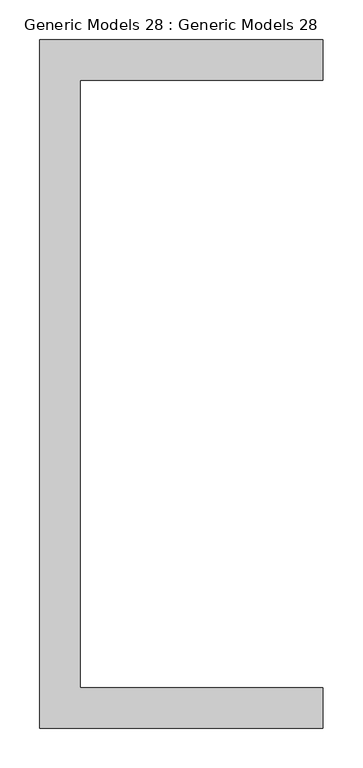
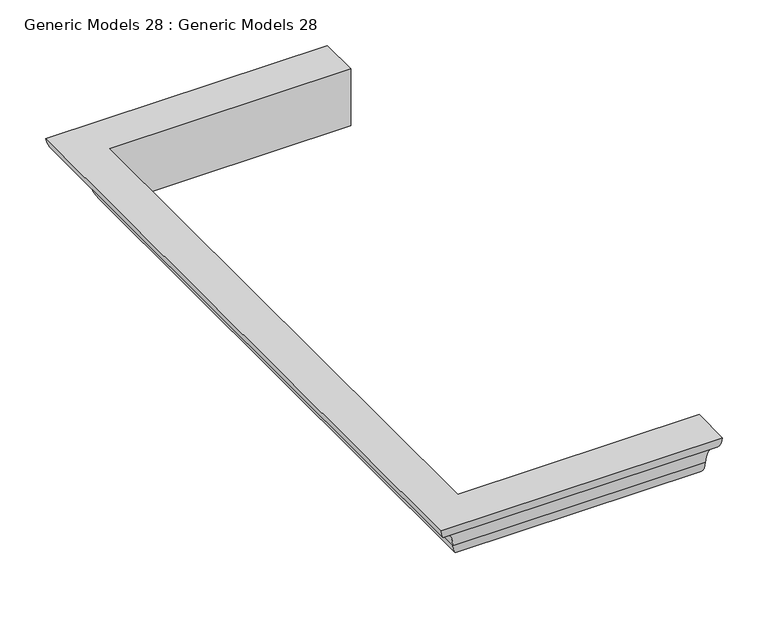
"""IFC4 building model written with IfcOpenShell, lengths in millimetres: proxy geometry, Generic Models 28 : Generic Models 28."""

from ifc_helpers import new_model, si_unit, frame, origin, place, context, project, spatial, polyline, circle_curve, ellipse_curve, source, transform, mapped, element, save
from ifc_brep_helpers import plane_surface, cylinder_surface, revolved_surface, advanced_brep


def generic_models_28_generic_models_28_aea4ba27(model_context):
    return source(origin(), model_context, "Body", "AdvancedBrep", [
        advanced_brep(
        [(3822.7, 3365.3947939, 5638.8), (3822.7, 3379.4841788, 5659.9340775), (3822.7, 3402.1054089, 5693.8659225), (3822.7, 3416.1947939, 5715.0), (3822.7, 3365.3947939, 5715.0), (3517.9, 3365.3947939, 5638.8), (3503.810615, 3379.4841788, 5659.9340775), (3481.189385, 3402.1054089, 5693.8659225), (3467.1, 3416.1947939, 5715.0), (3467.1, 2552.5947939, 5715.0), (3822.7, 2552.5947939, 5715.0), (3822.7, 2603.3947939, 5715.0), (3517.9, 2603.3947939, 5715.0), (3517.9, 3365.3947939, 5715.0), (3517.9, 2603.3947939, 5638.8), (3503.810615, 2589.3054089, 5659.9340775), (3481.189385, 2566.6841788, 5693.8659225), (3822.7, 2603.3947939, 5638.8), (3822.7, 2566.6841788, 5693.8659225), (3822.7, 2589.3054089, 5659.9340775)],
        [
            (0, 1, circle_curve(frame((3822.7, 3351.415854, 5663.3827937), z_axis=(1.0, 0.0, 0.0), x_axis=(0.0, -1.0, 0.0)), 28.2794007)),
            (1, 2, circle_curve(frame((3822.7, 3424.5493136, 5654.3969868), z_axis=(-1.0, 0.0, 0.0), x_axis=(0.0, -1.0, 0.0)), 45.4040279)),
            (2, 3, circle_curve(frame((3822.7, 3388.126469, 5718.4487162), z_axis=(1.0, 0.0, 0.0), x_axis=(0.0, -1.0, 0.0)), 28.2794007)),
            (3, 4),
            (4, 0),
            (0, 5),
            (5, 6, ellipse_curve(frame((3531.8789399, 3351.415854, 5663.3827937), z_axis=(0.7071067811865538, 0.7071067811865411, 0.0), x_axis=(0.7071067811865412, -0.7071067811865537, 0.0)), 39.993112, 28.2794007)),
            (6, 1),
            (6, 7, ellipse_curve(frame((3458.7454802, 3424.5493136, 5654.3969868), z_axis=(-0.7071067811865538, -0.7071067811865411, 0.0), x_axis=(-0.7071067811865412, 0.7071067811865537, 0.0)), 64.210992, 45.4040279)),
            (7, 2),
            (7, 8, ellipse_curve(frame((3495.1683249, 3388.126469, 5718.4487162), z_axis=(0.7071067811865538, 0.7071067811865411, 0.0), x_axis=(0.7071067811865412, -0.7071067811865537, 0.0)), 39.993112, 28.2794007)),
            (8, 3),
            (8, 9),
            (9, 10),
            (10, 11),
            (11, 12),
            (12, 13),
            (13, 4),
            (13, 5),
            (5, 14),
            (14, 15, ellipse_curve(frame((3531.8789399, 2617.3737337, 5663.3827937), z_axis=(-0.7071067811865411, 0.7071067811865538, 0.0), x_axis=(0.7071067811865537, 0.7071067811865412, 0.0)), 39.993112, 28.2794007)),
            (15, 6),
            (15, 16, ellipse_curve(frame((3458.7454802, 2544.2402741, 5654.3969868), z_axis=(0.7071067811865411, -0.7071067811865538, 0.0), x_axis=(-0.7071067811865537, -0.7071067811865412, 0.0)), 64.210992, 45.4040279)),
            (16, 7),
            (16, 9, ellipse_curve(frame((3495.1683249, 2580.6631187, 5718.4487162), z_axis=(-0.7071067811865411, 0.7071067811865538, 0.0), x_axis=(0.7071067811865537, 0.7071067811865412, 0.0)), 39.993112, 28.2794007)),
            (12, 14),
            (17, 11),
            (10, 18, circle_curve(frame((3822.7, 2580.6631187, 5718.4487162), z_axis=(1.0, 0.0, 0.0), x_axis=(0.0, 1.0, 0.0)), 28.2794007)),
            (18, 19, circle_curve(frame((3822.7, 2544.2402741, 5654.3969868), z_axis=(-1.0, 0.0, 0.0), x_axis=(0.0, 1.0, 0.0)), 45.4040279)),
            (19, 17, circle_curve(frame((3822.7, 2617.3737337, 5663.3827937), z_axis=(1.0, 0.0, 0.0), x_axis=(0.0, 1.0, 0.0)), 28.2794007)),
            (14, 17),
            (19, 15),
            (18, 16),
        ],
        [
            plane_surface(frame((3822.7, 3365.3947939, 5638.8), z_axis=(1.0, 0.0, 0.0), x_axis=(0.0, 0.0, 1.0))),
            cylinder_surface(frame((3822.7, 3351.415854, 5663.3827937), z_axis=(1.0, 0.0, 0.0), x_axis=(0.0, -1.0, 0.0)), 28.2794007),
            revolved_surface(polyline([(3413.3414523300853, 3379.1452857, 5654.3969868), (3822.7, 3379.1452857, 5654.3969868)]), (3822.7, 3424.5493136, 5654.3969868), (-1.0, 0.0, 0.0)),
            cylinder_surface(frame((3822.7, 3388.126469, 5718.4487162), z_axis=(1.0, 0.0, 0.0), x_axis=(0.0, -1.0, 0.0)), 28.2794007),
            plane_surface(frame((3822.7, 3416.1947939, 5715.0), z_axis=(0.0, 0.0, 1.0), x_axis=(-1.0, 0.0, 0.0))),
            plane_surface(frame((3822.7, 3365.3947939, 5715.0), z_axis=(0.0, -1.0, 0.0), x_axis=(-1.0, 0.0, 0.0))),
            cylinder_surface(frame((3531.8789399, 3365.3947939, 5663.3827937), z_axis=(0.0, 1.0, 0.0), x_axis=(1.0, 0.0, 0.0)), 28.2794007),
            revolved_surface(polyline([(3504.1495081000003, 2498.836246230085, 5654.3969868), (3504.1495081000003, 3469.9533414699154, 5654.3969868)]), (3458.7454802, 3365.3947939, 5654.3969868), (0.0, -1.0, 0.0)),
            cylinder_surface(frame((3495.1683249, 3365.3947939, 5718.4487162), z_axis=(0.0, 1.0, 0.0), x_axis=(1.0, 0.0, 0.0)), 28.2794007),
            plane_surface(frame((3517.9, 3365.3947939, 5715.0), z_axis=(1.0, 0.0, 0.0), x_axis=(0.0, -1.0, 0.0))),
            plane_surface(frame((3822.7, 2603.3947939, 5638.8), z_axis=(1.0, 0.0, 0.0), x_axis=(0.0, 0.0, 1.0))),
            cylinder_surface(frame((3517.9, 2617.3737337, 5663.3827937), z_axis=(-1.0, 0.0, 0.0), x_axis=(0.0, 1.0, 0.0)), 28.2794007),
            revolved_surface(polyline([(3822.7, 2589.644302, 5654.3969868), (3413.341452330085, 2589.644302, 5654.3969868)]), (3517.9, 2544.2402741, 5654.3969868), (1.0, 0.0, 0.0)),
            cylinder_surface(frame((3517.9, 2580.6631187, 5718.4487162), z_axis=(-1.0, 0.0, 0.0), x_axis=(0.0, 1.0, 0.0)), 28.2794007),
            plane_surface(frame((3517.9, 2603.3947939, 5715.0), z_axis=(0.0, 1.0, 0.0), x_axis=(1.0, 0.0, 0.0))),
        ],
        [
            (0, [[1, 2, 3, 4, 5]]),
            (1, [[-1, 6, 7, 8]]),
            (2, [[-2, -8, 9, 10]]),
            (3, [[-3, -10, 11, 12]]),
            (4, [[-4, -12, 13, 14, 15, 16, 17, 18]]),
            (5, [[-5, -18, 19, -6]]),
            (6, [[-7, 20, 21, 22]]),
            (7, [[-9, -22, 23, 24]]),
            (8, [[-11, -24, 25, -13]]),
            (9, [[-19, -17, 26, -20]]),
            (10, [[27, -15, 28, 29, 30]]),
            (11, [[-21, 31, -30, 32]]),
            (12, [[-23, -32, -29, 33]]),
            (13, [[-25, -33, -28, -14]]),
            (14, [[-26, -16, -27, -31]]),
        ],
    ),
    ])


if __name__ == "__main__":
    model = new_model("IFC4")
    model_context = context("Model", 3, world=origin())
    ifc_project = project(units=[si_unit("LENGTHUNIT", "METRE", prefix="MILLI")], contexts=[model_context])
    site = spatial("IfcSite", under=ifc_project)
    building = spatial("IfcBuilding", under=site)
    placement = place(None, origin())
    generic_models_28_generic_models_28_shape = generic_models_28_generic_models_28_aea4ba27(model_context)
    element("IfcBuildingElementProxy", 1, Name="Generic Models 28 : Generic Models 28", ObjectType="Generic Models 28 : Generic Models 28", at=placement, inside=building, context=model_context, shape_type="MappedRepresentation", body=[
        mapped(generic_models_28_generic_models_28_shape, transform((0.0, 0.0, 0.0), x_axis=(1.0, 0.0, 0.0), y_axis=(0.0, 1.0, 0.0), z_axis=(0.0, 0.0, 1.0))),
    ])
    save(model, "model.ifc")
